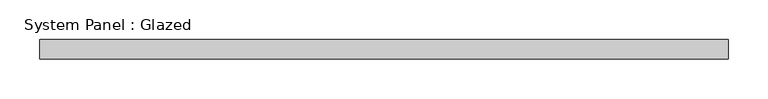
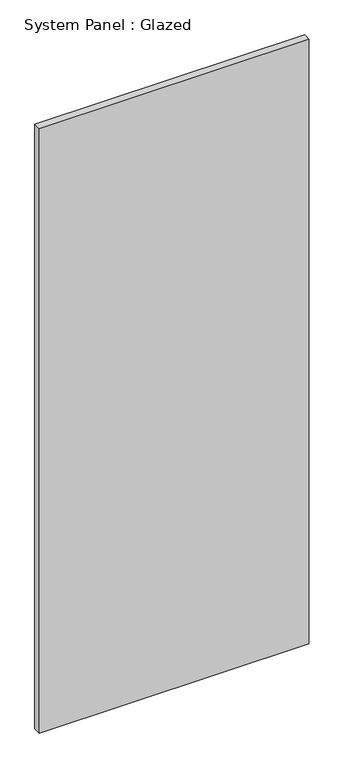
"""IFC4 building model written with IfcOpenShell, lengths in millimetres: plate geometry, System Panel : Glazed."""

from ifc_helpers import new_model, si_unit, origin, origin_with_axes, place, context, project, spatial, polyline, outline, extrude, source, transform, mapped, element, save


def system_panel_glazed_37b7c907(model_context):
    return source(origin(), model_context, "Body", "SweptSolid", [
        extrude(outline(polyline([(435.4736842, -49.5), (-435.4736842, -49.5), (-435.4736842, -24.5), (435.4736842, -24.5), (435.4736842, -49.5)])), origin_with_axes(), (0.0, 0.0, 1.0), 2060.0),
    ])


if __name__ == "__main__":
    model = new_model("IFC4")
    model_context = context("Model", 3, world=origin())
    ifc_project = project(units=[si_unit("LENGTHUNIT", "METRE", prefix="MILLI")], contexts=[model_context])
    site = spatial("IfcSite", under=ifc_project)
    building = spatial("IfcBuilding", under=site)
    placement = place(None, origin())
    system_panel_glazed_shape = system_panel_glazed_37b7c907(model_context)
    element("IfcPlate", 1, ObjectType="System Panel : Glazed", at=placement, inside=building, context=model_context, shape_type="MappedRepresentation", body=[
        mapped(system_panel_glazed_shape, transform((0.0, 0.0, 0.0), x_axis=(1.0, 0.0, 0.0), y_axis=(0.0, 1.0, 0.0), z_axis=(0.0, 0.0, 1.0))),
    ])
    save(model, "model.ifc")
